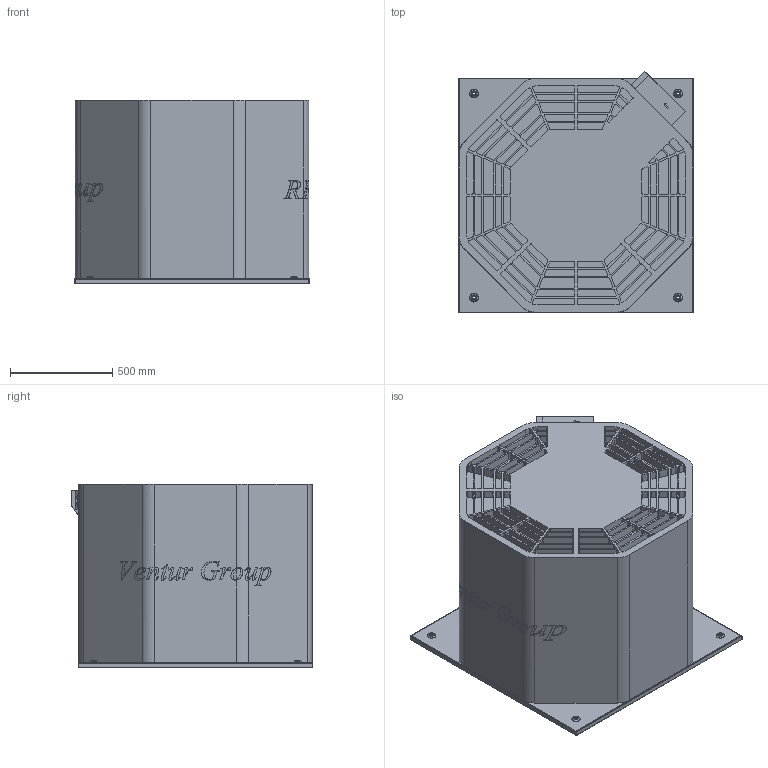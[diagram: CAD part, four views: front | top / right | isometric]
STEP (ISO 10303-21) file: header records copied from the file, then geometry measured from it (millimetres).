
FILE_DESCRIPTION(/* description */ (''),/* implementation_level */ '2;1');
FILE_NAME(/* name */ 'E:\Mariusz\Modele uproszczone\RFHT\RFHT_x_630 423534090\RFHT_x_630 423534090\RFHT_x_630 423534090.stp',/* time_stamp */ '2018-06-15T16:13:47+02:00',/* author */ ('M.Janczarek'),/* organization */ (''),/* preprocessor_version */ 'ST-DEVELOPER v16.5',/* originating_system */ 'Autodesk Inventor 2017',/* authorisation */ '');
FILE_SCHEMA (('AUTOMOTIVE_DESIGN { 1 0 10303 214 3 1 1 }'));
Products named in the file (1): RFHT_x_630 423534090
Bounding box: 1150 x 1183.82 x 898 mm (x, y, z)
Volume: 934934890.9 mm3; surface area: 7424933.9 mm2
Topology: 1 solids, 1 shells, 1555 faces, 4203 edges, 2779 vertices
Faces by surface type: plane 757, cylinder 451, bspline 290, cone 32, torus 25
Full cylindrical faces by diameter (mm): 6.186 x1, 9.427 x1, 12.4 x4, 22.3 x1, 22.6 x2, 25 x1, 27 x2, 52 x1, 55 x1, 56.5 x1, 60 x1, 575 x1
Entity records: 51938 total; most frequent: CARTESIAN_POINT 13836, ORIENTED_EDGE 8304, DIRECTION 7002, EDGE_CURVE 4152, VERTEX_POINT 2778, LINE 2488, VECTOR 2488, AXIS2_PLACEMENT_3D 2257
